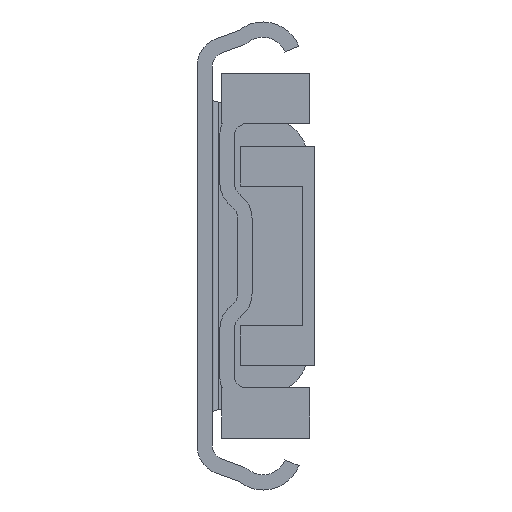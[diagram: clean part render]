
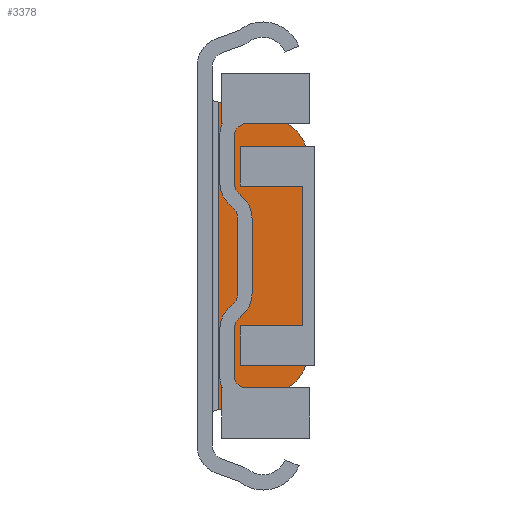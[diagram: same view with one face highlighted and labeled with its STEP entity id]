
A CAD part, front view. The second image highlights one B-rep face of the part: STEP entity #3378.
In plain terms, the highlighted planar face has unit normal (0, -1, 0).
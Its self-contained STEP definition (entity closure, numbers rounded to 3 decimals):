
#293=LINE('',#5819,#632);
#294=LINE('',#5824,#633);
#295=LINE('',#5828,#634);
#296=LINE('',#5830,#635);
#632=VECTOR('',#4819,1000.);
#633=VECTOR('',#4822,1000.);
#634=VECTOR('',#4825,1000.);
#635=VECTOR('',#4826,1000.);
#789=PLANE('',#4030);
#1505=ORIENTED_EDGE('',*,*,#2137,.F.);
#1506=ORIENTED_EDGE('',*,*,#2138,.F.);
#1507=ORIENTED_EDGE('',*,*,#2139,.F.);
#1508=ORIENTED_EDGE('',*,*,#2140,.F.);
#1509=ORIENTED_EDGE('',*,*,#2141,.F.);
#1510=ORIENTED_EDGE('',*,*,#2142,.F.);
#2137=EDGE_CURVE('',#2514,#2515,#293,.T.);
#2138=EDGE_CURVE('',#2516,#2514,#2706,.F.);
#2139=EDGE_CURVE('',#2517,#2516,#294,.T.);
#2140=EDGE_CURVE('',#2518,#2517,#2707,.F.);
#2141=EDGE_CURVE('',#2519,#2518,#295,.T.);
#2142=EDGE_CURVE('',#2515,#2519,#296,.T.);
#2514=VERTEX_POINT('',#5820);
#2515=VERTEX_POINT('',#5821);
#2516=VERTEX_POINT('',#5823);
#2517=VERTEX_POINT('',#5825);
#2518=VERTEX_POINT('',#5827);
#2519=VERTEX_POINT('',#5829);
#2706=CIRCLE('',#4031,8.);
#2707=CIRCLE('',#4032,8.);
#2903=EDGE_LOOP('',(#1505,#1506,#1507,#1508,#1509,#1510));
#3118=FACE_BOUND('',#2903,.T.);
#3378=ADVANCED_FACE('',(#3118),#789,.T.);
#4030=AXIS2_PLACEMENT_3D('',#5818,#4817,#4818);
#4031=AXIS2_PLACEMENT_3D('',#5822,#4820,#4821);
#4032=AXIS2_PLACEMENT_3D('',#5826,#4823,#4824);
#4817=DIRECTION('',(0.,-1.,0.));
#4818=DIRECTION('',(0.,0.,-1.));
#4819=DIRECTION('',(-0.966,0.,-0.259));
#4820=DIRECTION('',(0.,-1.,0.));
#4821=DIRECTION('',(0.,0.,-1.));
#4822=DIRECTION('',(0.,0.,-1.));
#4823=DIRECTION('',(0.,-1.,0.));
#4824=DIRECTION('',(0.,0.,-1.));
#4825=DIRECTION('',(0.966,0.,-0.259));
#4826=DIRECTION('',(0.,0.,1.));
#5818=CARTESIAN_POINT('',(12.9,454.7,14.965));
#5819=CARTESIAN_POINT('',(22.316,454.7,-20.174));
#5820=CARTESIAN_POINT('',(12.471,454.7,-22.812));
#5821=CARTESIAN_POINT('',(3.5,454.7,-25.216));
#5822=CARTESIAN_POINT('',(10.4,454.7,-15.085));
#5823=CARTESIAN_POINT('',(18.4,454.7,-15.085));
#5824=CARTESIAN_POINT('',(18.4,454.7,14.965));
#5825=CARTESIAN_POINT('',(18.4,454.7,15.085));
#5826=CARTESIAN_POINT('',(10.4,454.7,15.085));
#5827=CARTESIAN_POINT('',(12.471,454.7,22.812));
#5828=CARTESIAN_POINT('',(14.833,454.7,22.179));
#5829=CARTESIAN_POINT('',(3.5,454.7,25.216));
#5830=CARTESIAN_POINT('',(3.5,454.7,-25.766));
